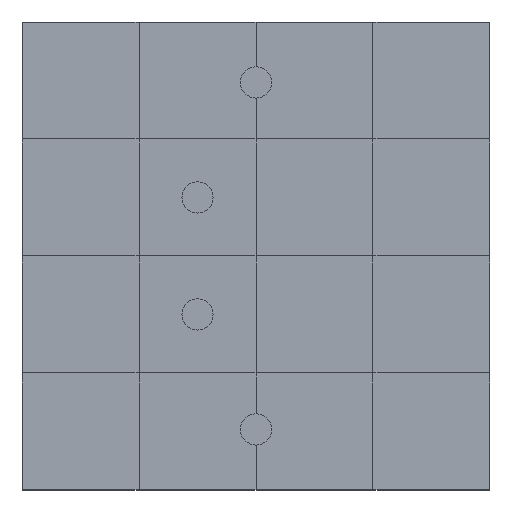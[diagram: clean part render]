
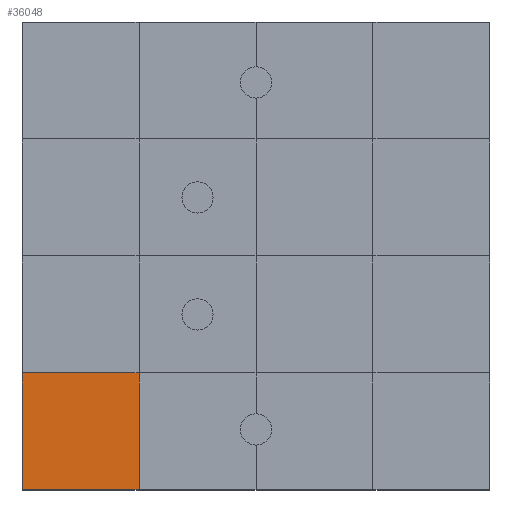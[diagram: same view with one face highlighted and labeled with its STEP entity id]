
A CAD part, top view. The second image highlights one B-rep face of the part: STEP entity #36048.
In plain terms, the highlighted planar face has unit normal (0, 0, 1).
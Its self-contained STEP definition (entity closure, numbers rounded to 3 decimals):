
#35859 = VERTEX_POINT('',#35860);
#35860 = CARTESIAN_POINT('',(0.,0.,1.5));
#35867 = PLANE('',#35868);
#35868 = AXIS2_PLACEMENT_3D('',#35869,#35870,#35871);
#35869 = CARTESIAN_POINT('',(0.,0.,0.));
#35870 = DIRECTION('',(1.,0.,-0.));
#35871 = DIRECTION('',(0.,0.,1.));
#35879 = PLANE('',#35880);
#35880 = AXIS2_PLACEMENT_3D('',#35881,#35882,#35883);
#35881 = CARTESIAN_POINT('',(0.,0.,0.));
#35882 = DIRECTION('',(-0.,1.,0.));
#35883 = DIRECTION('',(0.,0.,1.));
#35920 = VERTEX_POINT('',#35921);
#35921 = CARTESIAN_POINT('',(0.,3.,1.5));
#35947 = EDGE_CURVE('',#35859,#35920,#35948,.T.);
#35948 = SURFACE_CURVE('',#35949,(#35953,#35960),.PCURVE_S1.);
#35949 = LINE('',#35950,#35951);
#35950 = CARTESIAN_POINT('',(0.,0.,1.5));
#35951 = VECTOR('',#35952,1.);
#35952 = DIRECTION('',(-0.,1.,0.));
#35953 = PCURVE('',#35867,#35954);
#35954 = DEFINITIONAL_REPRESENTATION('',(#35955),#35959);
#35955 = LINE('',#35956,#35957);
#35956 = CARTESIAN_POINT('',(1.5,0.));
#35957 = VECTOR('',#35958,1.);
#35958 = DIRECTION('',(0.,-1.));
#35959 = ( GEOMETRIC_REPRESENTATION_CONTEXT(2) 
PARAMETRIC_REPRESENTATION_CONTEXT() REPRESENTATION_CONTEXT('2D SPACE',''
  ) );
#35960 = PCURVE('',#35961,#35966);
#35961 = PLANE('',#35962);
#35962 = AXIS2_PLACEMENT_3D('',#35963,#35964,#35965);
#35963 = CARTESIAN_POINT('',(0.,0.,1.5));
#35964 = DIRECTION('',(0.,0.,1.));
#35965 = DIRECTION('',(1.,0.,-0.));
#35966 = DEFINITIONAL_REPRESENTATION('',(#35967),#35971);
#35967 = LINE('',#35968,#35969);
#35968 = CARTESIAN_POINT('',(0.,0.));
#35969 = VECTOR('',#35970,1.);
#35970 = DIRECTION('',(0.,1.));
#35971 = ( GEOMETRIC_REPRESENTATION_CONTEXT(2) 
PARAMETRIC_REPRESENTATION_CONTEXT() REPRESENTATION_CONTEXT('2D SPACE',''
  ) );
#36000 = EDGE_CURVE('',#35859,#36001,#36003,.T.);
#36001 = VERTEX_POINT('',#36002);
#36002 = CARTESIAN_POINT('',(3.,0.,1.5));
#36003 = SURFACE_CURVE('',#36004,(#36008,#36015),.PCURVE_S1.);
#36004 = LINE('',#36005,#36006);
#36005 = CARTESIAN_POINT('',(0.,0.,1.5));
#36006 = VECTOR('',#36007,1.);
#36007 = DIRECTION('',(1.,0.,-0.));
#36008 = PCURVE('',#35879,#36009);
#36009 = DEFINITIONAL_REPRESENTATION('',(#36010),#36014);
#36010 = LINE('',#36011,#36012);
#36011 = CARTESIAN_POINT('',(1.5,0.));
#36012 = VECTOR('',#36013,1.);
#36013 = DIRECTION('',(0.,1.));
#36014 = ( GEOMETRIC_REPRESENTATION_CONTEXT(2) 
PARAMETRIC_REPRESENTATION_CONTEXT() REPRESENTATION_CONTEXT('2D SPACE',''
  ) );
#36015 = PCURVE('',#35961,#36016);
#36016 = DEFINITIONAL_REPRESENTATION('',(#36017),#36021);
#36017 = LINE('',#36018,#36019);
#36018 = CARTESIAN_POINT('',(0.,0.));
#36019 = VECTOR('',#36020,1.);
#36020 = DIRECTION('',(1.,0.));
#36021 = ( GEOMETRIC_REPRESENTATION_CONTEXT(2) 
PARAMETRIC_REPRESENTATION_CONTEXT() REPRESENTATION_CONTEXT('2D SPACE',''
  ) );
#36048 = ADVANCED_FACE('',(#36049),#35961,.T.);
#36049 = FACE_BOUND('',#36050,.T.);
#36050 = EDGE_LOOP('',(#36051,#36052,#36053,#36081));
#36051 = ORIENTED_EDGE('',*,*,#35947,.F.);
#36052 = ORIENTED_EDGE('',*,*,#36000,.T.);
#36053 = ORIENTED_EDGE('',*,*,#36054,.T.);
#36054 = EDGE_CURVE('',#36001,#36055,#36057,.T.);
#36055 = VERTEX_POINT('',#36056);
#36056 = CARTESIAN_POINT('',(3.,3.,1.5));
#36057 = SURFACE_CURVE('',#36058,(#36062,#36069),.PCURVE_S1.);
#36058 = LINE('',#36059,#36060);
#36059 = CARTESIAN_POINT('',(3.,0.,1.5));
#36060 = VECTOR('',#36061,1.);
#36061 = DIRECTION('',(-0.,1.,0.));
#36062 = PCURVE('',#35961,#36063);
#36063 = DEFINITIONAL_REPRESENTATION('',(#36064),#36068);
#36064 = LINE('',#36065,#36066);
#36065 = CARTESIAN_POINT('',(3.,0.));
#36066 = VECTOR('',#36067,1.);
#36067 = DIRECTION('',(0.,1.));
#36068 = ( GEOMETRIC_REPRESENTATION_CONTEXT(2) 
PARAMETRIC_REPRESENTATION_CONTEXT() REPRESENTATION_CONTEXT('2D SPACE',''
  ) );
#36069 = PCURVE('',#36070,#36075);
#36070 = PLANE('',#36071);
#36071 = AXIS2_PLACEMENT_3D('',#36072,#36073,#36074);
#36072 = CARTESIAN_POINT('',(3.,0.,1.5));
#36073 = DIRECTION('',(0.,0.,1.));
#36074 = DIRECTION('',(1.,0.,-0.));
#36075 = DEFINITIONAL_REPRESENTATION('',(#36076),#36080);
#36076 = LINE('',#36077,#36078);
#36077 = CARTESIAN_POINT('',(0.,0.));
#36078 = VECTOR('',#36079,1.);
#36079 = DIRECTION('',(0.,1.));
#36080 = ( GEOMETRIC_REPRESENTATION_CONTEXT(2) 
PARAMETRIC_REPRESENTATION_CONTEXT() REPRESENTATION_CONTEXT('2D SPACE',''
  ) );
#36081 = ORIENTED_EDGE('',*,*,#36082,.F.);
#36082 = EDGE_CURVE('',#35920,#36055,#36083,.T.);
#36083 = SURFACE_CURVE('',#36084,(#36088,#36095),.PCURVE_S1.);
#36084 = LINE('',#36085,#36086);
#36085 = CARTESIAN_POINT('',(0.,3.,1.5));
#36086 = VECTOR('',#36087,1.);
#36087 = DIRECTION('',(1.,0.,-0.));
#36088 = PCURVE('',#35961,#36089);
#36089 = DEFINITIONAL_REPRESENTATION('',(#36090),#36094);
#36090 = LINE('',#36091,#36092);
#36091 = CARTESIAN_POINT('',(0.,3.));
#36092 = VECTOR('',#36093,1.);
#36093 = DIRECTION('',(1.,0.));
#36094 = ( GEOMETRIC_REPRESENTATION_CONTEXT(2) 
PARAMETRIC_REPRESENTATION_CONTEXT() REPRESENTATION_CONTEXT('2D SPACE',''
  ) );
#36095 = PCURVE('',#36096,#36101);
#36096 = PLANE('',#36097);
#36097 = AXIS2_PLACEMENT_3D('',#36098,#36099,#36100);
#36098 = CARTESIAN_POINT('',(0.,3.,1.5));
#36099 = DIRECTION('',(0.,0.,1.));
#36100 = DIRECTION('',(1.,0.,-0.));
#36101 = DEFINITIONAL_REPRESENTATION('',(#36102),#36106);
#36102 = LINE('',#36103,#36104);
#36103 = CARTESIAN_POINT('',(0.,0.));
#36104 = VECTOR('',#36105,1.);
#36105 = DIRECTION('',(1.,0.));
#36106 = ( GEOMETRIC_REPRESENTATION_CONTEXT(2) 
PARAMETRIC_REPRESENTATION_CONTEXT() REPRESENTATION_CONTEXT('2D SPACE',''
  ) );
